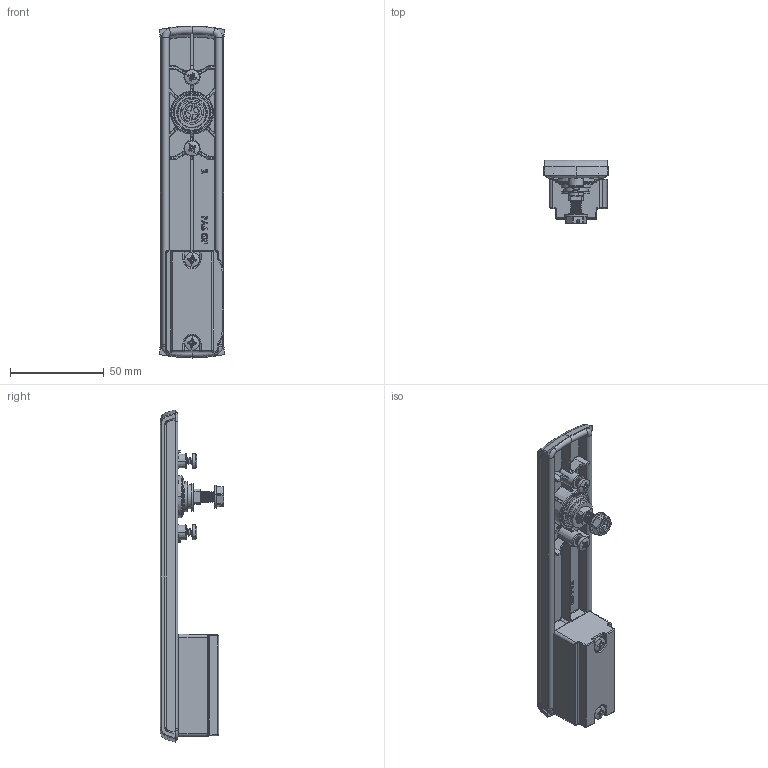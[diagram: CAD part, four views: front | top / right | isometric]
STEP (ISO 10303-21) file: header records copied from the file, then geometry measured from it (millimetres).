
FILE_DESCRIPTION (( 'STEP AP214' ), '1' );
FILE_NAME ('1B.RW430.N.STEP', '2022-02-04T07:44:55', ( '' ), ( '' ), 'SwSTEP 2.0', 'SolidWorks 2021', '' );
FILE_SCHEMA (( 'AUTOMOTIVE_DESIGN' ));
Length unit declared in the file: millimetre
Products named in the file (9): P.014951_01-00; 1B.RS300.02.02.00_A; P.014252_01-01; S6PZ_M6x12 S6Pz; DIN 3771_16x2; 1B.RW430.N; DIN 7981_F.4.1x25; 2.PT.001_A; DIN 7981_F.4.1x12
Assembly tree (10 placements, depth 2):
  1B.RW430.N
    P.014252_01-01
    2.PT.001_A
    S6PZ_M6x12 S6Pz
    DIN 7981_F.4.1x12  x2
    DIN 3771_16x2
    P.014951_01-00
    1B.RS300.02.02.00_A
    DIN 7981_F.4.1x25  x2
Bounding box: 34.28 x 34 x 177 mm (x, y, z)
Volume: 44105.9 mm3; surface area: 42992.7 mm2
Topology: 11 solids, 11 shells, 1957 faces, 4658 edges, 2761 vertices
Faces by surface type: plane 527, cylinder 486, bspline 350, torus 224, cone 186, sphere 184
Entity records: 70610 total; most frequent: CARTESIAN_POINT 30321, ORIENTED_EDGE 8692, DIRECTION 7922, EDGE_CURVE 4346, AXIS2_PLACEMENT_3D 3183, VERTEX_POINT 2554, EDGE_LOOP 1894, FACE_OUTER_BOUND 1846
